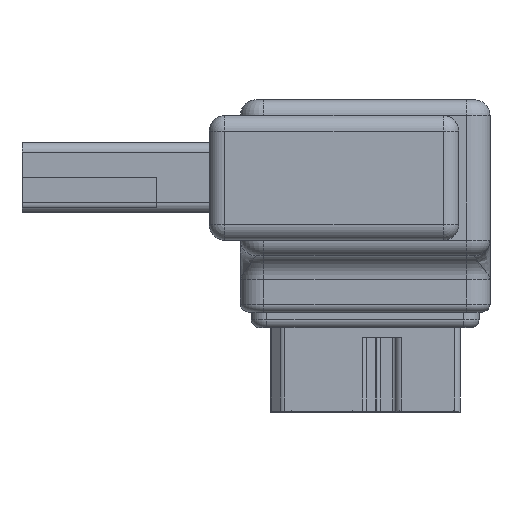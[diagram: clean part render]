
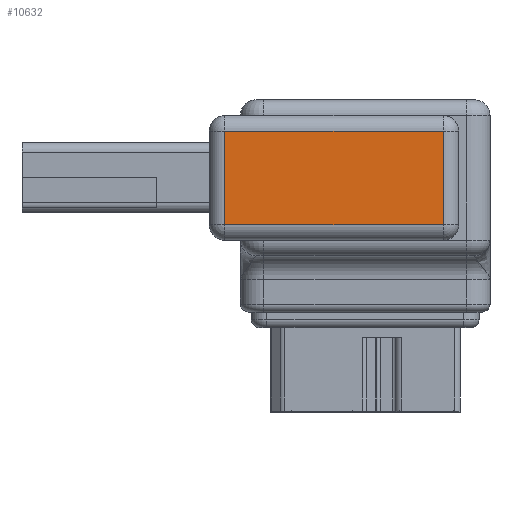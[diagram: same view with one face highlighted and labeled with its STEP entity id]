
A CAD part, front view. The second image highlights one B-rep face of the part: STEP entity #10632.
In plain terms, the highlighted planar face has unit normal (0, -1, 0) as drawn and (0, 1, 0) by its records, which use the part's own axes.
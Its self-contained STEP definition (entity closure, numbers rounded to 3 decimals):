
#708 = CARTESIAN_POINT ( 'NONE',  ( -9., 7.75, 4. ) ) ;
#721 = CARTESIAN_POINT ( 'NONE',  ( -10., 7.75, -3. ) ) ;
#723 = DIRECTION ( 'NONE',  ( -1., 0., 0. ) ) ;
#724 = DIRECTION ( 'NONE',  ( 0., 0., 1. ) ) ;
#725 = CARTESIAN_POINT ( 'NONE',  ( 6., 7.75, 3. ) ) ;
#726 = DIRECTION ( 'NONE',  ( 1., 0., 0. ) ) ;
#727 = CARTESIAN_POINT ( 'NONE',  ( 5., 7.75, 4. ) ) ;
#728 = DIRECTION ( 'NONE',  ( 0., 0., -1. ) ) ;
#7258 = EDGE_LOOP ( 'NONE', ( #12675, #12676, #12677, #12678 ) ) ;
#8943 = FACE_OUTER_BOUND ( 'NONE', #7258, .T. ) ;
#10632 = ADVANCED_FACE ( 'NONE', ( #8943 ), #14896, .F. ) ;
#10837 = VERTEX_POINT ( 'NONE', #17025 ) ;
#11603 = VERTEX_POINT ( 'NONE', #18062 ) ;
#11615 = VERTEX_POINT ( 'NONE', #18074 ) ;
#11685 = VERTEX_POINT ( 'NONE', #18144 ) ;
#12675 = ORIENTED_EDGE ( 'NONE', *, *, #13403, .T. ) ;
#12676 = ORIENTED_EDGE ( 'NONE', *, *, #13404, .T. ) ;
#12677 = ORIENTED_EDGE ( 'NONE', *, *, #13405, .T. ) ;
#12678 = ORIENTED_EDGE ( 'NONE', *, *, #13406, .T. ) ;
#13403 = EDGE_CURVE ( 'NONE', #10837, #11615, #20051, .T. ) ;
#13404 = EDGE_CURVE ( 'NONE', #11615, #11603, #20045, .T. ) ;
#13405 = EDGE_CURVE ( 'NONE', #11603, #11685, #20055, .T. ) ;
#13406 = EDGE_CURVE ( 'NONE', #11685, #10837, #20057, .T. ) ;
#14892 = CARTESIAN_POINT ( 'NONE',  ( -10., 7.75, 4. ) ) ;
#14896 = PLANE ( 'NONE',  #19643 ) ;
#14898 = DIRECTION ( 'NONE',  ( 0., -1., 0. ) ) ;
#14899 = DIRECTION ( 'NONE',  ( 0., 0., -1. ) ) ;
#17025 = CARTESIAN_POINT ( 'NONE',  ( 5., 7.75, -3. ) ) ;
#18062 = CARTESIAN_POINT ( 'NONE',  ( -9., 7.75, 3. ) ) ;
#18074 = CARTESIAN_POINT ( 'NONE',  ( -9., 7.75, -3. ) ) ;
#18144 = CARTESIAN_POINT ( 'NONE',  ( 5., 7.75, 3. ) ) ;
#19643 = AXIS2_PLACEMENT_3D ( 'NONE', #14892, #14898, #14899 ) ;
#20045 = LINE ( 'NONE', #708, #20056 ) ;
#20051 = LINE ( 'NONE', #721, #20054 ) ;
#20054 = VECTOR ( 'NONE', #723, 1000. ) ;
#20055 = LINE ( 'NONE', #725, #20058 ) ;
#20056 = VECTOR ( 'NONE', #724, 1000. ) ;
#20057 = LINE ( 'NONE', #727, #20060 ) ;
#20058 = VECTOR ( 'NONE', #726, 1000. ) ;
#20060 = VECTOR ( 'NONE', #728, 1000. ) ;
